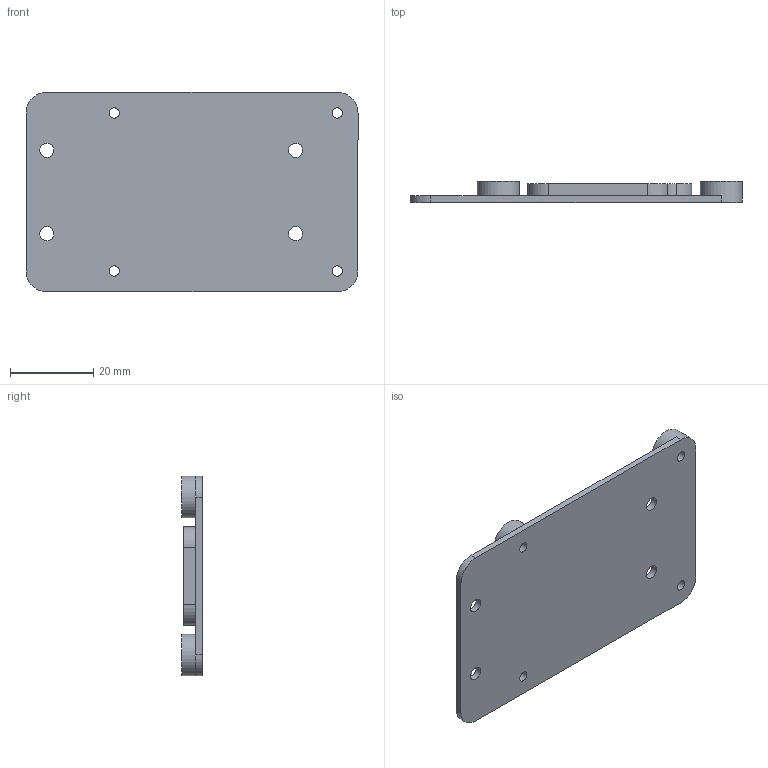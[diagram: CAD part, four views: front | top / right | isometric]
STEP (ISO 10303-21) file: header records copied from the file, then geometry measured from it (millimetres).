
FILE_DESCRIPTION(/* description */ ('Maintien carte kicker + dissipateur thermique'),/* implementation_level */ '2;1');
FILE_NAME(/* name */ 'D:\Users\Utilisateur\Desktop\SSL PAU\Robot\Usinage\Métal\.STEP\35_Kickerboard holder.stp',/* time_stamp */ '2021-01-18T09:25:02+01:00',/* author */ ('Utilisateur'),/* organization */ (''),/* preprocessor_version */ 'ST-DEVELOPER v18.1',/* originating_system */ 'Autodesk Inventor 2020',/* authorisation */ '');
FILE_SCHEMA (('AUTOMOTIVE_DESIGN { 1 0 10303 214 3 1 1 }'));
Length unit declared in the file: millimetre
Products named in the file (1): 35_maintien carte kicker
Bounding box: 79.8 x 5 x 47.97 mm (x, y, z)
Volume: 9484.7 mm3; surface area: 8874.2 mm2
Topology: 1 solids, 1 shells, 37 faces, 105 edges, 71 vertices
Faces by surface type: cylinder 22, plane 15
Full cylindrical faces by diameter (mm): 2.459 x4, 3.4 x4, 10 x4
Entity records: 1311 total; most frequent: DIRECTION 236, CARTESIAN_POINT 214, ORIENTED_EDGE 210, EDGE_CURVE 105, AXIS2_PLACEMENT_3D 93, VERTEX_POINT 71, CIRCLE 55, EDGE_LOOP 54
